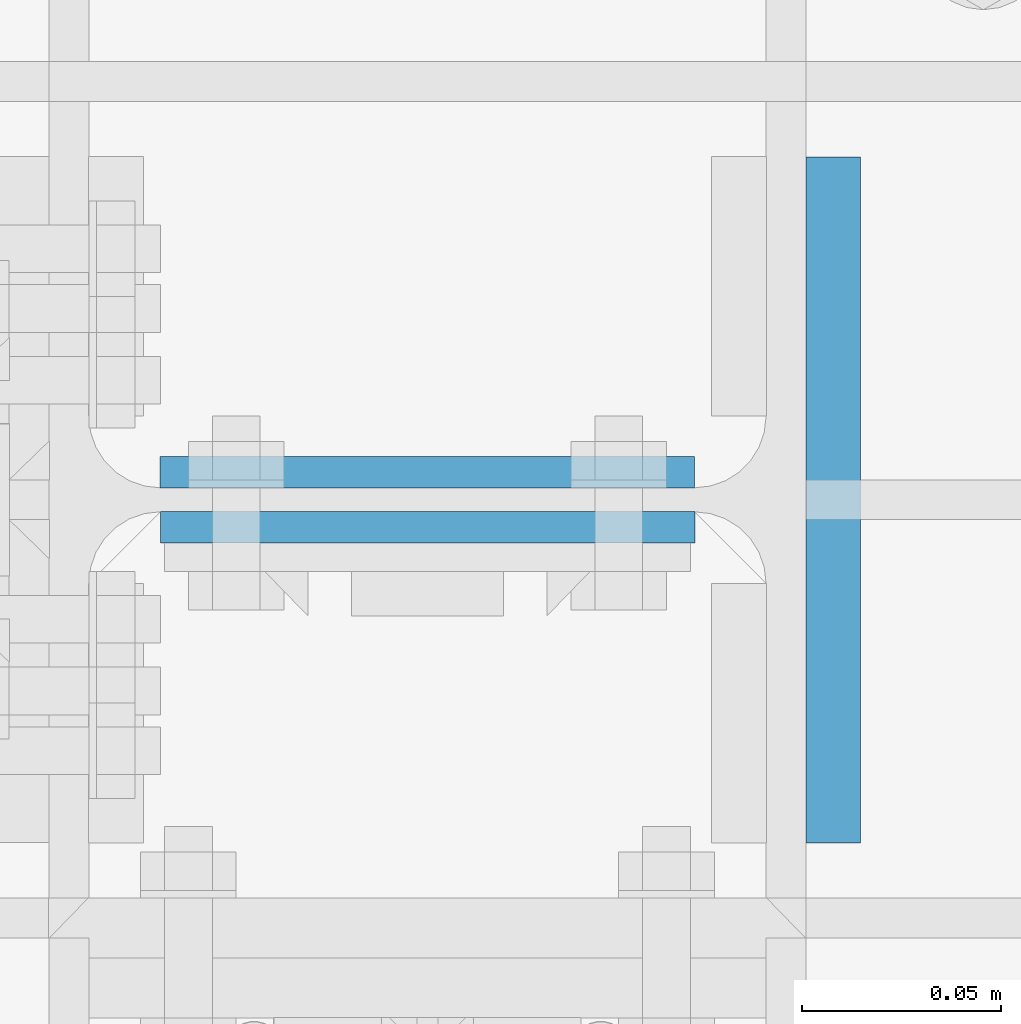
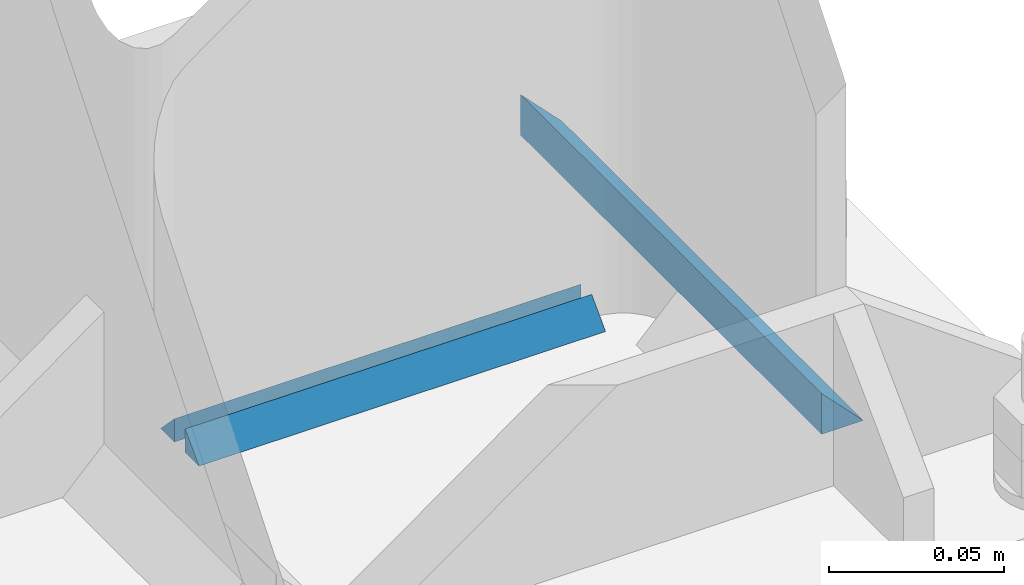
# One storey, part 55 of 251: 6 fasteners.
"""IFC4 building model written with IfcOpenShell, lengths in metres."""

from ifc_helpers import new_model, si_unit, frame, origin_with_axes, place, context, project, spatial, polyline, outline, extrude, type_object, element, save


model = new_model("IFC4")

# Units and contexts
model_context = context("Model", 3, precision=1e-05, world=origin_with_axes())
ifc_project = project(units=[si_unit("LENGTHUNIT", "METRE"), si_unit("AREAUNIT", "SQUARE_METRE"), si_unit("VOLUMEUNIT", "CUBIC_METRE"), si_unit("MASSUNIT", "GRAM", prefix="KILO"), si_unit("TIMEUNIT", "SECOND"), si_unit("PLANEANGLEUNIT", "RADIAN"), si_unit("SOLIDANGLEUNIT", "STERADIAN"), si_unit("THERMODYNAMICTEMPERATUREUNIT", "DEGREE_CELSIUS")], contexts=[model_context])

# Site, building, storey
placement_1 = place(None, origin_with_axes())
site = spatial("IfcSite", under=ifc_project, at=placement_1, Name="Italia", CompositionType="ELEMENT")
building = spatial("IfcBuilding", under=site, at=placement_1, Name="Deposito", CompositionType="ELEMENT")
storey = spatial("IfcBuildingStorey", under=building, at=placement_1, Name="Storey 0", CompositionType="ELEMENT", Elevation=0.0)

# Fasteners
fastener_type_1 = type_object("IfcFastenerType", Name="Collegamenti 0014_-001 0016_-054 0018_-056 0032_-002 0033_-058 0047_-003 0048_-060 0062_-004 0063_-005 0079_-008", PredefinedType="WELD")
placement_2 = place(placement_1, origin_with_axes())
fastener_1_placement = place(placement_2, origin_with_axes())
element("IfcFastener", 1, at=fastener_1_placement, inside=storey, type_object=fastener_type_1, Name="Collegamenti 0014_-001 0016_-054 0018_-056 0032_-002 0033_-058 0047_-003 0048_-060 0062_-004 0063_-005 0079_-008", context=model_context, shape_type="SweptSolid", body=[
    extrude(outline(polyline([(0.0, 0.0), (0.0137482, 0.0141734), (0.0137482, 0.0), (0.0, 0.0)])), frame((20.1087, 19.9139, 0.07495), z_axis=(0.0, 1.0, 0.0), x_axis=(-1.0, 0.0, 0.0)), (0.0, 0.0, 1.0), 0.1721),
])
fastener_type_2 = type_object("IfcFastenerType", Name="Collegamenti 0014_-001 0016_-054 0018_-056 0032_-002 0033_-058 0047_-003 0048_-060 0062_-004 0063_-005 0079_-008", PredefinedType="WELD")
fastener_2_placement = place(placement_2, origin_with_axes())
element("IfcFastener", 2, at=fastener_2_placement, inside=storey, type_object=fastener_type_2, Name="Collegamenti 0014_-001 0016_-054 0018_-056 0032_-002 0033_-058 0047_-003 0048_-060 0062_-004 0063_-005 0079_-008", context=model_context, shape_type="SweptSolid", body=[
    extrude(outline(polyline([(0.0, 0.0), (0.00792694, 0.00817336), (0.00792694, 0.0), (0.0, 0.0)])), frame((20.067, 20.0109, 0.07495), z_axis=(-1.0, 0.0, 0.0), x_axis=(0.0, -1.0, 0.0)), (0.0, 0.0, 1.0), 0.134098),
])
fastener_type_3 = type_object("IfcFastenerType", Name="Collegamenti 0014_-001 0016_-054 0018_-056 0032_-002 0033_-058 0047_-003 0048_-060 0062_-004 0063_-005 0079_-008", PredefinedType="WELD")
fastener_3_placement = place(placement_2, origin_with_axes())
element("IfcFastener", 3, at=fastener_3_placement, inside=storey, type_object=fastener_type_3, Name="Collegamenti 0014_-001 0016_-054 0018_-056 0032_-002 0033_-058 0047_-003 0048_-060 0062_-004 0063_-005 0079_-008", context=model_context, shape_type="SweptSolid", body=[
    extrude(outline(polyline([(0.0, 0.0), (0.00792694, 0.00817336), (0.00792694, 0.0), (0.0, 0.0)])), frame((19.933, 19.9891, 0.07495), z_axis=(1.0, 0.0, 0.0), x_axis=(0.0, 1.0, 0.0)), (0.0, 0.0, 1.0), 0.134098),
])
fastener_type_4 = type_object("IfcFastenerType", Name="Collegamenti 0014_-001 0016_-054 0018_-056 0032_-002 0033_-058 0047_-003 0048_-060 0062_-004 0063_-005 0079_-008", PredefinedType="WELD")
fastener_4_placement = place(placement_2, origin_with_axes())
element("IfcFastener", 4, at=fastener_4_placement, inside=storey, type_object=fastener_type_4, Name="Collegamenti 0014_-001 0016_-054 0018_-056 0032_-002 0033_-058 0047_-003 0048_-060 0062_-004 0063_-005 0079_-008", context=model_context, shape_type="SweptSolid", body=[
    extrude(outline(polyline([(0.0, 0.0), (0.0137482, 0.0141734), (0.0137482, 0.0), (0.0, 0.0)])), frame((20.1087, 19.9139, 0.07495), z_axis=(0.0, 1.0, 0.0), x_axis=(-1.0, 0.0, 0.0)), (0.0, 0.0, 1.0), 0.1721),
])
fastener_type_5 = type_object("IfcFastenerType", Name="Collegamenti 0014_-001 0016_-054 0018_-056 0032_-002 0033_-058 0047_-003 0048_-060 0062_-004 0063_-005 0079_-008", PredefinedType="WELD")
fastener_5_placement = place(placement_2, origin_with_axes())
element("IfcFastener", 5, at=fastener_5_placement, inside=storey, type_object=fastener_type_5, Name="Collegamenti 0014_-001 0016_-054 0018_-056 0032_-002 0033_-058 0047_-003 0048_-060 0062_-004 0063_-005 0079_-008", context=model_context, shape_type="SweptSolid", body=[
    extrude(outline(polyline([(0.0, 0.0), (0.00792694, 0.00817336), (0.00792694, 0.0), (0.0, 0.0)])), frame((20.067, 20.0109, 0.07495), z_axis=(-1.0, 0.0, 0.0), x_axis=(0.0, -1.0, 0.0)), (0.0, 0.0, 1.0), 0.134098),
])
fastener_type_6 = type_object("IfcFastenerType", Name="Collegamenti 0014_-001 0016_-054 0018_-056 0032_-002 0033_-058 0047_-003 0048_-060 0062_-004 0063_-005 0079_-008", PredefinedType="WELD")
fastener_6_placement = place(placement_2, origin_with_axes())
element("IfcFastener", 6, at=fastener_6_placement, inside=storey, type_object=fastener_type_6, Name="Collegamenti 0014_-001 0016_-054 0018_-056 0032_-002 0033_-058 0047_-003 0048_-060 0062_-004 0063_-005 0079_-008", context=model_context, shape_type="SweptSolid", body=[
    extrude(outline(polyline([(0.0, 0.0), (0.00792694, 0.00817336), (0.00792694, 0.0), (0.0, 0.0)])), frame((19.933, 19.9891, 0.07495), z_axis=(1.0, 0.0, 0.0), x_axis=(0.0, 1.0, 0.0)), (0.0, 0.0, 1.0), 0.134098),
])

save(model, "model.ifc")
